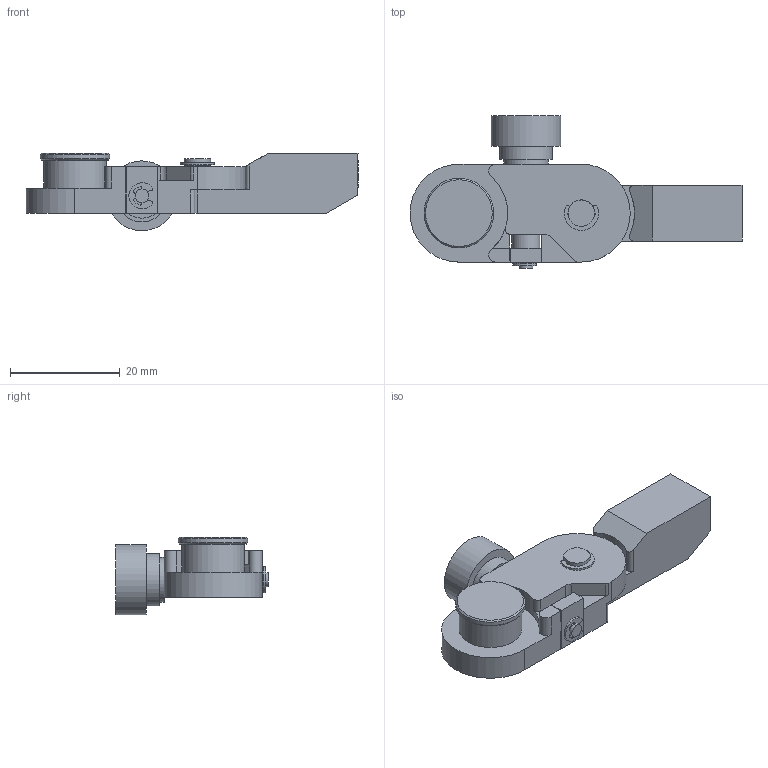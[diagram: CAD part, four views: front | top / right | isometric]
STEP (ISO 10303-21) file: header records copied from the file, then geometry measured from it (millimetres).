
FILE_DESCRIPTION((''),'2;1');
FILE_NAME('F:\CAD files\Itr\3D MARKETING MODELS\GRIPS\G1078\G1078.stp','2017-04-20T11:57:41',('mlampen'),(''),'Autodesk Inventor 2010','Autodesk Inventor 2010','');
FILE_SCHEMA(('AUTOMOTIVE_DESIGN { 1 0 10303 214 1 1 1 1 }'));
Length unit declared in the file: inch
Products named in the file (5): Assembly1; Part2; Part4; Part6; Part8
Assembly tree (4 placements, depth 2):
  Assembly1
    Part2
    Part4
    Part6
    Part8
Bounding box: 60.38 x 27.74 x 14.08 mm (x, y, z)
Volume: 7459.9 mm3; surface area: 5481.3 mm2
Topology: 4 solids, 7 shells, 181 faces, 449 edges, 292 vertices
Faces by surface type: plane 72, cylinder 72, cone 28, bspline 8, torus 1
Full cylindrical faces by diameter (mm): 1.981 x1, 2.489 x1, 2.937 x6, 3.048 x1, 3.073 x1, 3.505 x6, 3.556 x1, 3.81 x2, 4.191 x1, 4.801 x2, 4.826 x2, 5.08 x1, 5.105 x1, 8.128 x1, 9.525 x1, 11.379 x1, 12.649 x1, 12.7 x1
Entity records: 5873 total; most frequent: CARTESIAN_POINT 1667, DIRECTION 871, ORIENTED_EDGE 768, EDGE_CURVE 384, AXIS2_PLACEMENT_3D 358, VERTEX_POINT 278, EDGE_LOOP 256, FACE_OUTER_BOUND 181
